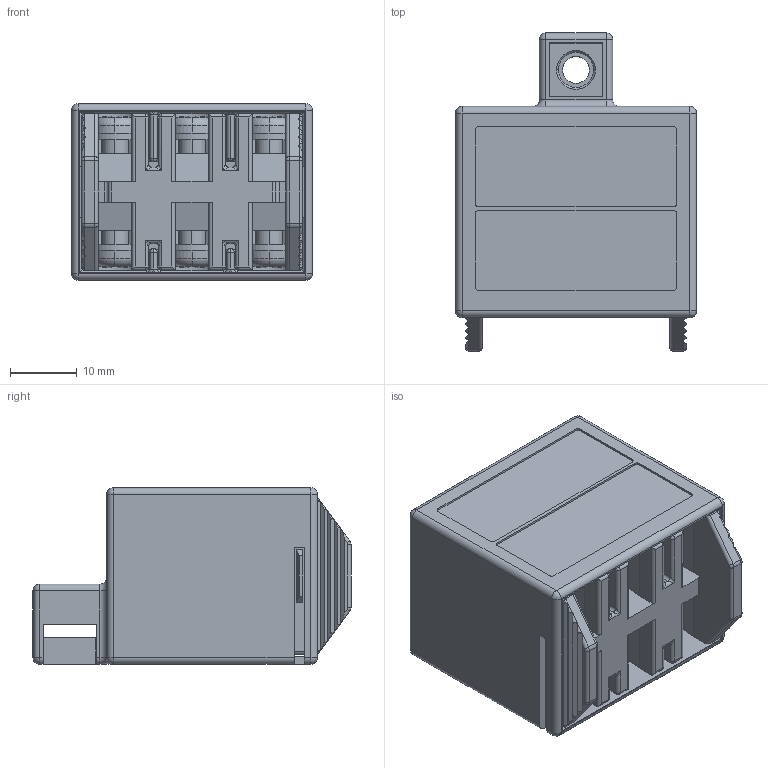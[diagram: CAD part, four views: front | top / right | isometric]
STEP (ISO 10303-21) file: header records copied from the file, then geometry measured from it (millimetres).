
FILE_DESCRIPTION(('Creo Elements/Direct Modeling STEP Export'),'2;1');
FILE_NAME('OA-QTM64.stp','2014-02-07T15:41:07',(''),(''),'Creo Elements/Direct Modeling STEP processor for AP214 (Solid Model)','Creo Elements/Direct Modeling 18.1B 29-Sep-2012 (C) Parametric Technology GmbH','');
FILE_SCHEMA(('AUTOMOTIVE_DESIGN { 1 0 10303 214 1 1 1 1 }'));
Length unit declared in the file: millimetre
Products named in the file (4): ねじ.1; ケース; 本体; OA-QTM64
Assembly tree (8 placements, depth 2):
  OA-QTM64
    ねじ.1  x6
    本体
    ケース
Bounding box: 36 x 47.5 x 26.4 mm (x, y, z)
Volume: 19930.2 mm3; surface area: 22489.3 mm2
Topology: 8 solids, 8 shells, 1075 faces, 2767 edges, 1688 vertices
Faces by surface type: plane 566, cylinder 301, cone 88, sphere 58, torus 38, bspline 24
Entity records: 32299 total; most frequent: CARTESIAN_POINT 10228, ORIENTED_EDGE 4626, DIRECTION 4315, EDGE_CURVE 2313, VECTOR 1625, LINE 1625, VERTEX_POINT 1438, AXIS2_PLACEMENT_3D 1345
